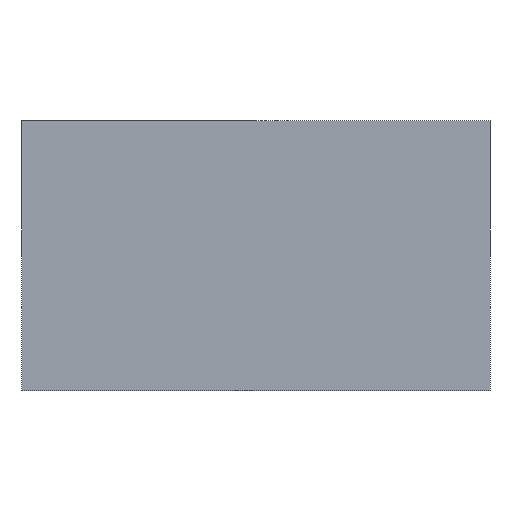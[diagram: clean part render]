
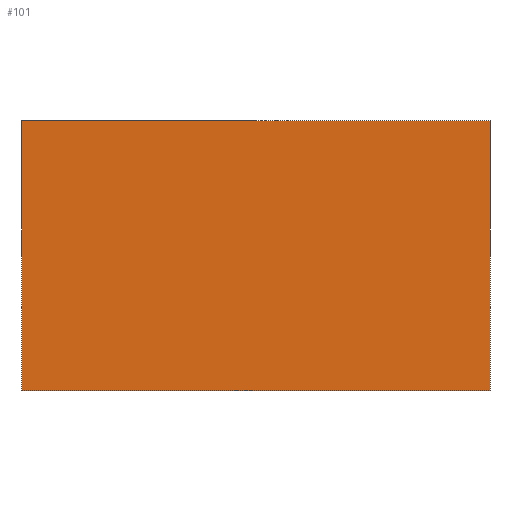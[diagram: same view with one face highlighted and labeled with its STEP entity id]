
A CAD part, front view. The second image highlights one B-rep face of the part: STEP entity #101.
In plain terms, the highlighted planar face has unit normal (0, -1, 0).
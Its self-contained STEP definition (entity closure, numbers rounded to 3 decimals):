
#3 = EDGE_CURVE ( 'NONE', #195, #178, #507, .T. ) ;
#5 = EDGE_CURVE ( 'NONE', #188, #201, #506, .T. ) ;
#9 = EDGE_CURVE ( 'NONE', #201, #178, #624, .T. ) ;
#23 = AXIS2_PLACEMENT_3D ( 'NONE', #319, #316, #315 ) ;
#56 = EDGE_CURVE ( 'NONE', #188, #195, #536, .T. ) ;
#101 = ADVANCED_FACE ( 'NONE', ( #435 ), #311, .F. ) ;
#153 = DIRECTION ( 'NONE',  ( 0., 0., -1. ) ) ;
#156 = DIRECTION ( 'NONE',  ( 1., 0., 0. ) ) ;
#159 = CARTESIAN_POINT ( 'NONE',  ( 104., 0., 120. ) ) ;
#161 = CARTESIAN_POINT ( 'NONE',  ( -104., 0., 0. ) ) ;
#163 = CARTESIAN_POINT ( 'NONE',  ( -104., 0., 120. ) ) ;
#164 = DIRECTION ( 'NONE',  ( 1., 0., 0. ) ) ;
#178 = VERTEX_POINT ( 'NONE', #381 ) ;
#188 = VERTEX_POINT ( 'NONE', #371 ) ;
#195 = VERTEX_POINT ( 'NONE', #364 ) ;
#201 = VERTEX_POINT ( 'NONE', #358 ) ;
#215 = DIRECTION ( 'NONE',  ( 0., 0., -1. ) ) ;
#227 = CARTESIAN_POINT ( 'NONE',  ( -104., 0., 120. ) ) ;
#311 = PLANE ( 'NONE',  #23 ) ;
#315 = DIRECTION ( 'NONE',  ( -1., 0., 0. ) ) ;
#316 = DIRECTION ( 'NONE',  ( 0., 1., 0. ) ) ;
#319 = CARTESIAN_POINT ( 'NONE',  ( -104., 0., 120. ) ) ;
#358 = CARTESIAN_POINT ( 'NONE',  ( 104., 0., 120. ) ) ;
#364 = CARTESIAN_POINT ( 'NONE',  ( -104., 0., 0. ) ) ;
#371 = CARTESIAN_POINT ( 'NONE',  ( -104., 0., 120. ) ) ;
#381 = CARTESIAN_POINT ( 'NONE',  ( 104., 0., 0. ) ) ;
#435 = FACE_OUTER_BOUND ( 'NONE', #511, .T. ) ;
#454 = VECTOR ( 'NONE', #215, 1000. ) ;
#506 = LINE ( 'NONE', #163, #607 ) ;
#507 = LINE ( 'NONE', #161, #717 ) ;
#511 = EDGE_LOOP ( 'NONE', ( #576, #649, #650, #651 ) ) ;
#536 = LINE ( 'NONE', #227, #454 ) ;
#559 = VECTOR ( 'NONE', #153, 1000. ) ;
#576 = ORIENTED_EDGE ( 'NONE', *, *, #3, .T. ) ;
#607 = VECTOR ( 'NONE', #156, 1000. ) ;
#624 = LINE ( 'NONE', #159, #559 ) ;
#649 = ORIENTED_EDGE ( 'NONE', *, *, #9, .F. ) ;
#650 = ORIENTED_EDGE ( 'NONE', *, *, #5, .F. ) ;
#651 = ORIENTED_EDGE ( 'NONE', *, *, #56, .T. ) ;
#717 = VECTOR ( 'NONE', #164, 1000. ) ;
